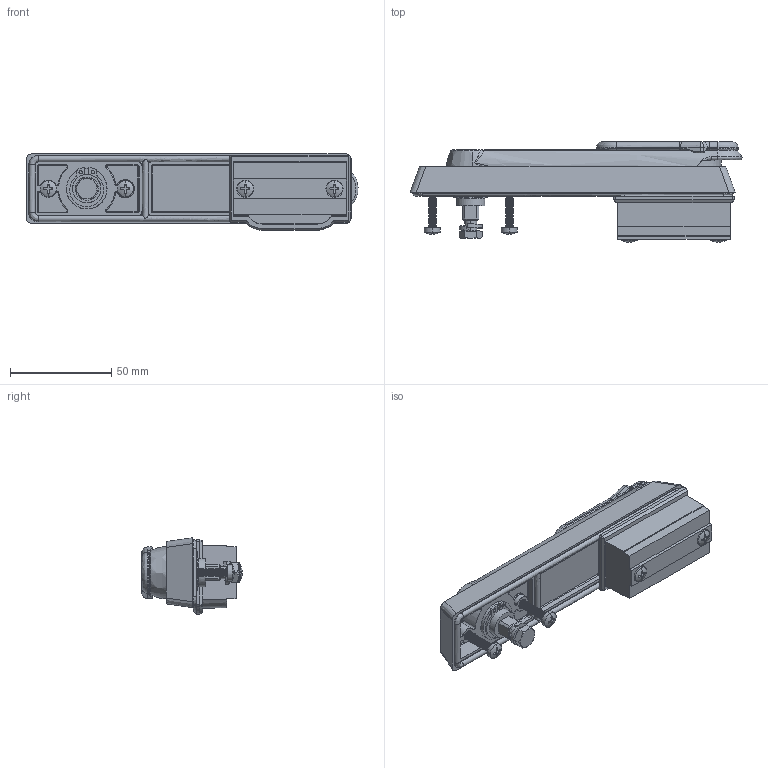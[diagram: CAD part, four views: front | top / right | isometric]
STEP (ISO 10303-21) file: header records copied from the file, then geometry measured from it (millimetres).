
FILE_DESCRIPTION (( 'STEP AP214' ), '1' );
FILE_NAME ('RS173.002.STEP', '2016-08-25T10:04:08', ( '' ), ( '' ), 'SwSTEP 2.0', 'SolidWorks 2015', '' );
FILE_SCHEMA (( 'AUTOMOTIVE_DESIGN' ));
Length unit declared in the file: millimetre
Products named in the file (22): DIN 7985_M3x6_79852   3  6-mattssons; DIN 9021_M3_90214  32  9-mattssons; DIN 127_M6 - A2; DIN 931_M6x16 - A2; DIN 7985_M4x20_79852   4 20-mattssons; DIN 7985_M4x25_79852   4 25-mattssons; DIN471_A14; DIN3771_10,5x2; RS173.001.10_A.1; RS173.001.10.02; RS173.001.10.01_GAMET; RS173.001.09; RS173.001.07; RS173.001.06; RS173.001.04; RS173.001.03_A; RS173.001.02_A; RS173.001.08_A; RS173.001.01; RS173.001.05_A; DIN 965_M3x10_09652   5 10-mattssons; RS173.002
Assembly tree (23 placements, depth 3):
  RS173.002
    RS173.001.01
    RS173.001.02_A
    RS173.001.03_A
    RS173.001.04
    RS173.001.06
    RS173.001.07
    RS173.001.09
    RS173.001.10_A.1
      RS173.001.10.01_GAMET
      RS173.001.10.02
    DIN3771_10,5x2
    DIN471_A14
    DIN 7985_M4x25_79852   4 25-mattssons  x2
    DIN 7985_M4x20_79852   4 20-mattssons  x2
    DIN 931_M6x16 - A2
    DIN 127_M6 - A2
    DIN 9021_M3_90214  32  9-mattssons
    DIN 7985_M3x6_79852   3  6-mattssons
    DIN 965_M3x10_09652   5 10-mattssons
    RS173.001.05_A
    RS173.001.08_A
Bounding box: 163.85 x 49.55 x 37.75 mm (x, y, z)
Volume: 96810.8 mm3; surface area: 68399.6 mm2
Topology: 22 solids, 22 shells, 2635 faces, 6404 edges, 3817 vertices
Faces by surface type: cone 666, torus 654, bspline 521, cylinder 414, plane 348, sphere 32
Entity records: 98192 total; most frequent: CARTESIAN_POINT 55339, ORIENTED_EDGE 9406, DIRECTION 8117, EDGE_CURVE 4703, AXIS2_PLACEMENT_3D 3407, VERTEX_POINT 2827, EDGE_LOOP 2004, CIRCLE 1962
